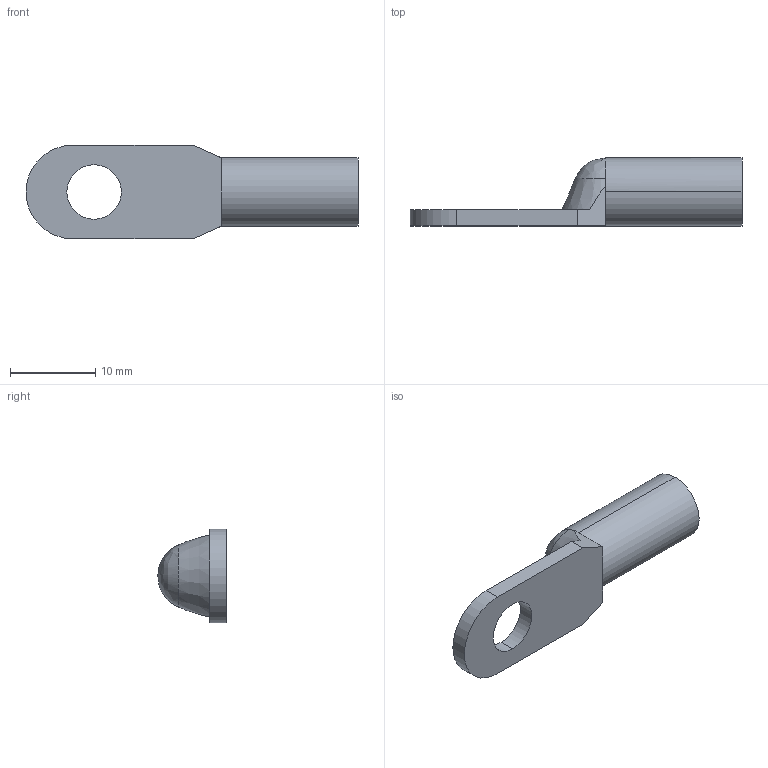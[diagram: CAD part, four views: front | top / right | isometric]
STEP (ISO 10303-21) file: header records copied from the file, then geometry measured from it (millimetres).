
FILE_DESCRIPTION (( 'STEP AP214' ), '1' );
FILE_NAME ('JG-10-6.STEP', '2020-04-24T13:04:05', ( '' ), ( '' ), 'SwSTEP 2.0', 'SolidWorks 2018', '' );
FILE_SCHEMA (( 'AUTOMOTIVE_DESIGN' ));
Length unit declared in the file: millimetre
Products named in the file (1): JG-10-6
Bounding box: 39 x 8 x 11 mm (x, y, z)
Volume: 906.9 mm3; surface area: 1340.8 mm2
Topology: 1 solids, 1 shells, 23 faces, 53 edges, 33 vertices
Faces by surface type: plane 14, cylinder 7, cone 1, bspline 1
Entity records: 857 total; most frequent: CARTESIAN_POINT 289, DIRECTION 116, ORIENTED_EDGE 106, EDGE_CURVE 53, AXIS2_PLACEMENT_3D 44, VERTEX_POINT 33, VECTOR 28, LINE 28
